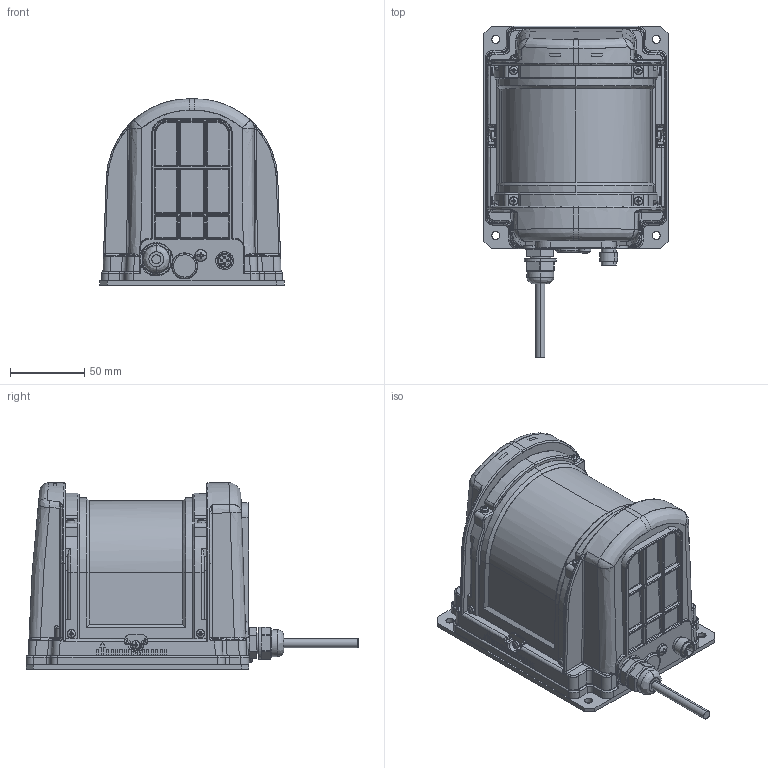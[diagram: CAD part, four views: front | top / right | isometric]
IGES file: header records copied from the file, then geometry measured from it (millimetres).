
Start section: SolidWorks IGES file using analytic representation for surfaces
Global section: file name: C:\Users\Administrator\Desktop\UXM-30 EHA  3D Data.IGS; native system: SolidWorks 2017; preprocessor: SolidWorks 2017; author: Administrator; date: 171117.102907; units: millimetre
Bounding box: 124 x 223.5 x 125.5 mm (x, y, z)
Surface area: 105728.9 mm2 (no closed solid volume)
Topology: 0 solids, 0 shells, 1876 faces, 16189 edges, 16153 vertices
Faces by surface type: bspline 1141, revolution 735
